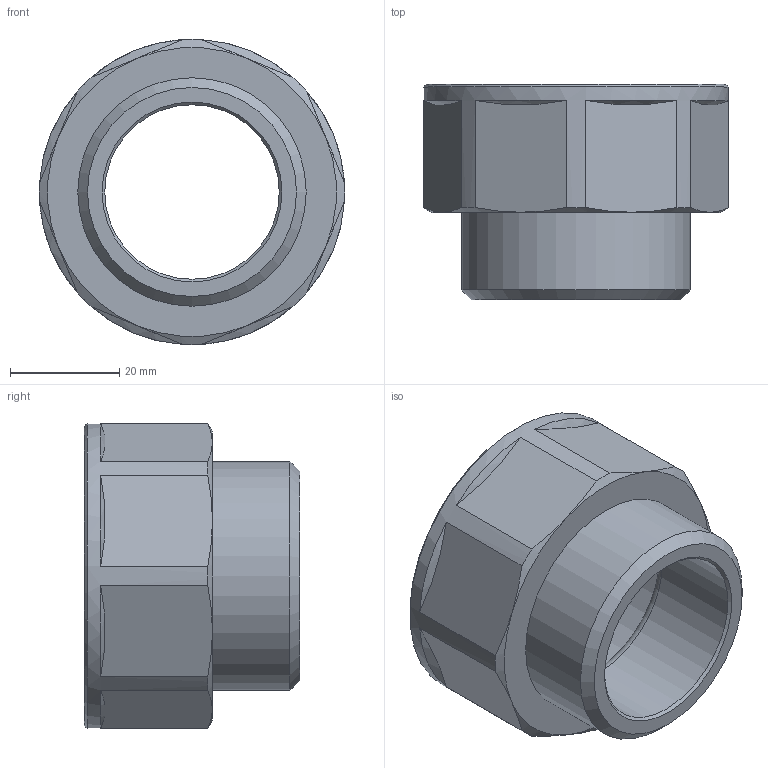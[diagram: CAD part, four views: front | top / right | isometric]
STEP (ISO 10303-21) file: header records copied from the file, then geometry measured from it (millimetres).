
FILE_DESCRIPTION(('STEP AP203'), '1');
FILE_NAME('ﾂﾐ.753158.007 - VTr.592.N.0807 ﾏ褞襄. G1 1-2xG1 1-4', '2024-07-08T09:39:24', ('Boss'), (''), 'C3D Converter', 'C3D Toolkit', '');
FILE_SCHEMA(('CONFIG_CONTROL_DESIGN'));
Length unit declared in the file: millimetre
Products named in the file (1): ВР.753158.007
Bounding box: 55.99 x 39.5 x 55.99 mm (x, y, z)
Volume: 29145.9 mm3; surface area: 13719.3 mm2
Topology: 1 solids, 1 shells, 37 faces, 85 edges, 52 vertices
Faces by surface type: cone 20, plane 12, cylinder 4, torus 1
Full cylindrical faces by diameter (mm): 32 x1, 41.91 x1, 44.846 x1, 56 x1
Entity records: 1342 total; most frequent: CARTESIAN_POINT 656, DIRECTION 136, ORIENTED_EDGE 124, EDGE_CURVE 62, AXIS2_PLACEMENT_3D 60, VERTEX_POINT 45, EDGE_LOOP 43, ADVANCED_FACE 30
